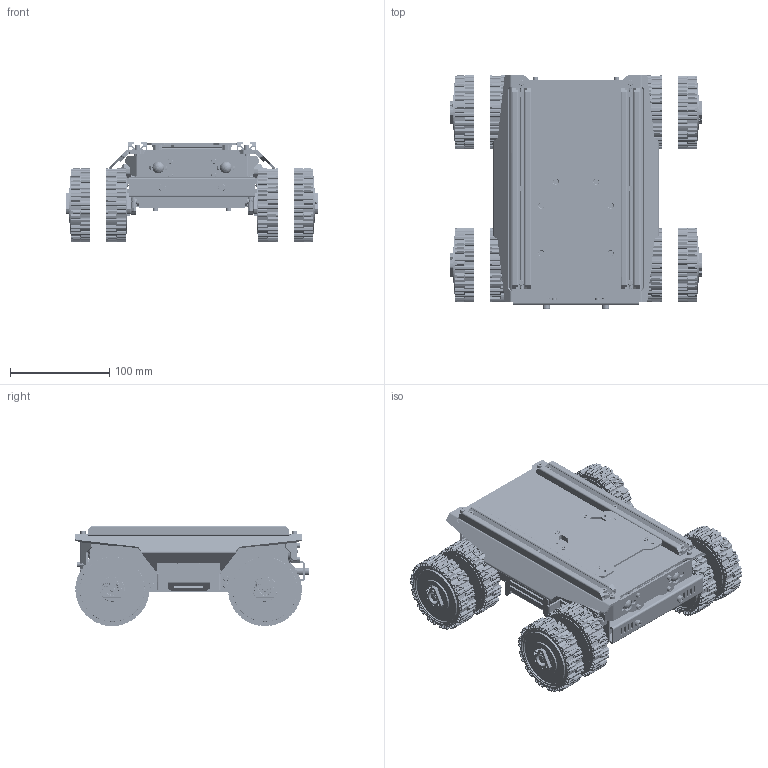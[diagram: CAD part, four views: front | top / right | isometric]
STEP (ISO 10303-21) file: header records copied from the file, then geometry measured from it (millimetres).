
FILE_DESCRIPTION(/* description */ (''),/* implementation_level */ '2;1');
FILE_NAME(/* name */ 'Cobra Flex.step',/* time_stamp */ '2026-02-02T14:17:40+08:00',/* author */ (''),/* organization */ (''),/* preprocessor_version */ 'ST-DEVELOPER v20.1',/* originating_system */ 'Autodesk Translation Framework v14.21.0.0',/* authorisation */ '');
FILE_SCHEMA (('AUTOMOTIVE_DESIGN { 1 0 10303 214 3 1 1 }'));
Products named in the file (93): Cobra Flex; BASE-MAIN; 零部件15; 12V LED; 12V LED_1; LED; GLASS; DC5521; 自锁开关; M4 铜柱; RIB-B; SIDE-A; SURFACE-A05; FRONT-3D-A; 零部件73; 前遮挡; BACK-3D; 零部件80; 后遮挡; 黑色硅胶垫; Driver PCB; Compute Board; 上盖板-白; 上功能扩展版; 上3D-D; 零部件81; 上亚克力盖板; 零部件77; OLED-JT v4; 4PIN v1; 739168144; Extruded (28); 739168272; Extruded (29); 739168656; Extruded (31); 739168528; Extruded (30); 654176208; Cylinder (1)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
Assembly tree (234 placements, depth 9):
  Cobra Flex
    BASE-MAIN
      零部件15
    12V LED
      LED
      GLASS
    12V LED_1
      LED
      GLASS
    扣式塞头 6mm  x4
    DC5521
    自锁开关
    M4 铜柱
    SIDE-A  x2
    RIB-B
    SURFACE-A05
    FRONT-3D-A
      零部件73
    前遮挡
    BACK-3D
      零部件80
    后遮挡
    黑色硅胶垫
    Driver PCB
    Compute Board
    上盖板-白
    上功能扩展版
    上3D-D
      零部件81
    上亚克力盖板
      零部件77
    OLED-JT v4
      4PIN v1
        739168144
          Extruded (28)
        739168272
          Extruded (29)
        739168528  x2
          Extruded (30)
        739168656
          Extruded (31)
        654176208  x4
          Cylinder (1)
        654176328  x4
          Cylinder (2)
        654176448  x4
          Cylinder (3)
    OLED亚克力
    摄像头 亚克力
      零部件76
    黑色金属杯头内六角螺丝 
M3*6  x20
    COBRA01_3DP_SIDE_SPEAKER  x2
    Cobra01_1020铝型材  x2
    六角铜柱 M2.5*16+4  x4
    黑色金属沉头螺丝 KM3*10  x6
    黑色金属杯头内六角螺丝 
M3*12  x8
    黑色金属沉头螺丝 KM2.5*8  x6
    银色金属螺母 M2.5  x2
    12V5000mAh
    铜柱-M2.5x5+2 v2  x8
Bounding box: 254 x 235.31 x 101.24 mm (x, y, z)
Volume: 1290479.2 mm3; surface area: 777692.4 mm2
Topology: 250 solids, 634 shells, 47396 faces, 133339 edges, 86295 vertices
Faces by surface type: plane 25580, cylinder 19392, bspline 1724, torus 538, cone 119, sphere 43
Full cylindrical faces by diameter (mm): 0.8 x12, 1 x2, 1.44 x4, 1.5 x9, 2 x2, 2.1 x16, 2.3 x24, 2.4 x26, 2.5 x104, 2.6 x2, 2.65 x12, 3 x162, 3.35 x2, 3.4 x2, 3.678 x18, 4 x16, 4.1 x4, 4.2 x40, 4.5 x4, 5 x64, 5.2 x6, 5.4 x50, 5.5 x58, 5.6 x1, 6 x6, 6.9 x2, 7 x10, 7.22 x2, 8.141 x8, 8.8 x1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
Entity records: 294645 total; most frequent: CARTESIAN_POINT 71572, DIRECTION 46531, ORIENTED_EDGE 46018, EDGE_CURVE 23249, LINE 15541, VECTOR 15541, AXIS2_PLACEMENT_3D 15495, VERTEX_POINT 15082
